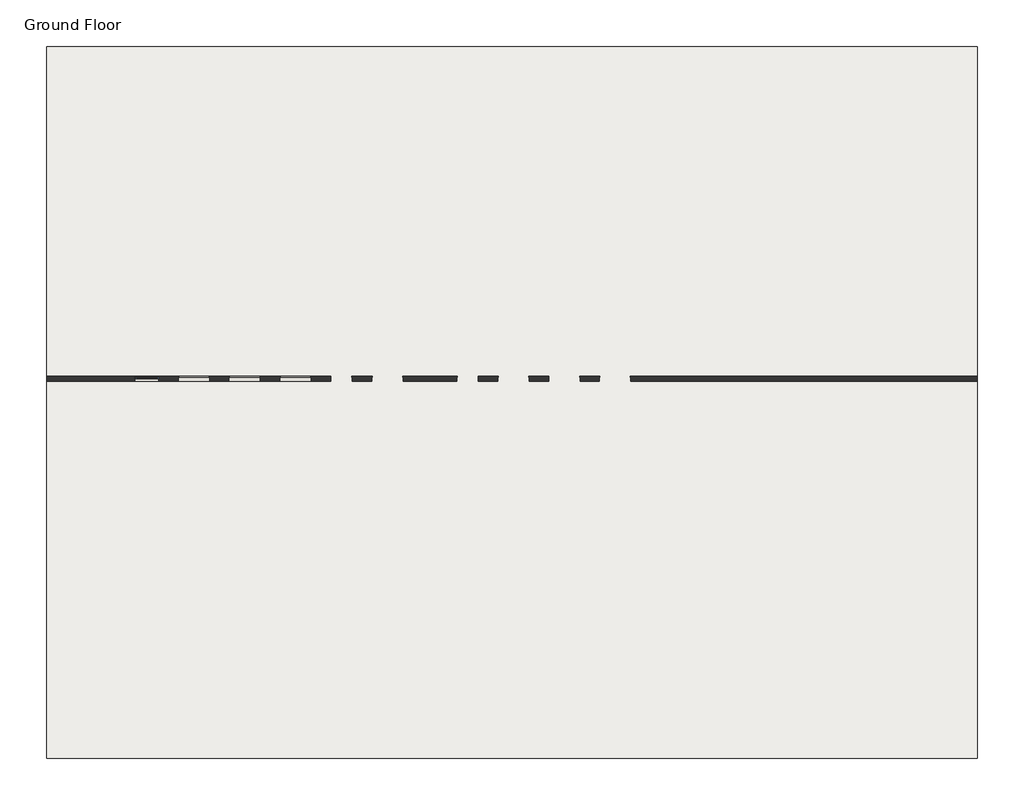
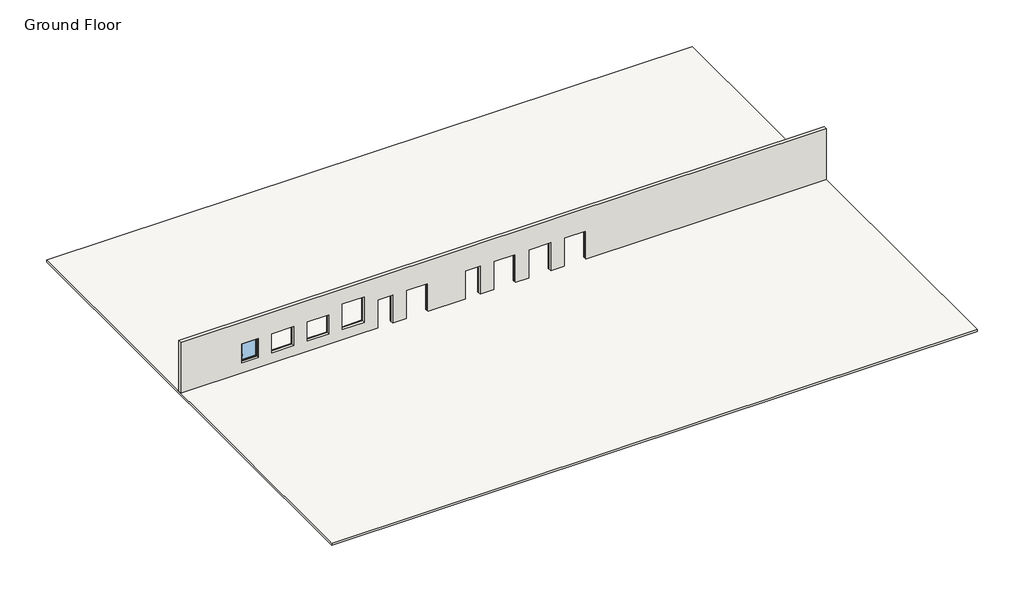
# One storey, incomplete: 1 slab, 1 wall, 1 window.
"""IFC4 building model written with IfcOpenShell, lengths in millimetres."""

from ifc_helpers import new_model, si_unit, frame, origin, place, context, project, spatial, polyline, outline, extrude, faceted_brep, transform, mapped, element, save
from components import window_342ed4de

model = new_model("IFC4")

# Units and contexts
model_context = context("Model", 3, world=origin())
ifc_project = project(units=[si_unit("LENGTHUNIT", "METRE", prefix="MILLI")], contexts=[model_context])

# Site, building, storey
site = spatial("IfcSite", under=ifc_project)
building = spatial("IfcBuilding", under=site)
storey = spatial("IfcBuildingStorey", under=building, Name="Ground Floor", Elevation=0.0)

# Slab
placement = place(None, origin())
element("IfcSlab", 1, ObjectType="Generic 150mm", at=placement, inside=storey, context=model_context, shape_type="SweptSolid", body=[
    extrude(outline(polyline([(24001.4860539, -19746.5483536), (-23998.5139461, -19746.5483536), (-23998.5139461, 16958.3739469), (24001.4860539, 16958.3739469), (24001.4860539, -19746.5483536)])), frame((0.0, 0.0, -150.0), z_axis=(0.0, 0.0, 1.0), x_axis=(1.0, 0.0, 0.0)), (0.0, 0.0, 1.0), 150.0),
])

# Wall
element("IfcWall", 2, ObjectType="Brick veneer - 250 timber", at=placement, inside=storey, context=model_context, shape_type="Brep", body=[
    faceted_brep([(24001.4860539, -296.7558328, 0.0), (24001.4860539, -296.7558328, 4000.0), (-23998.5139461, -296.7558328, 4000.0), (-23998.5139461, -296.7558328, 0.0), (-9351.402387, -296.7558328, 0.0), (-9351.402387, -296.7558328, 2210.0), (-8231.402387, -296.7558328, 2210.0), (-8231.402387, -296.7558328, 0.0), (-7231.402387, -296.7558328, 0.0), (-7231.402387, -296.7558328, 2210.0), (-5611.402387, -296.7558328, 2210.0), (-5611.402387, -296.7558328, 0.0), (-2851.402387, -296.7558328, 0.0), (-2851.402387, -296.7558328, 2210.0), (-1731.402387, -296.7558328, 2210.0), (-1731.402387, -296.7558328, 0.0), (-731.402387, -296.7558328, 0.0), (-731.402387, -296.7558328, 2210.0), (888.597613, -296.7558328, 2210.0), (888.597613, -296.7558328, 0.0), (1888.597613, -296.7558328, 0.0), (1888.597613, -296.7558328, 2210.0), (3508.597613, -296.7558328, 2210.0), (3508.597613, -296.7558328, 0.0), (4508.597613, -296.7558328, 0.0), (4508.597613, -296.7558328, 2210.0), (6128.597613, -296.7558328, 2210.0), (6128.597613, -296.7558328, 0.0), (-19461.402387, -296.7558328, 800.0), (-19461.402387, -296.7558328, 2300.0), (-18211.402387, -296.7558328, 2300.0), (-18211.402387, -296.7558328, 800.0), (-12971.402387, -296.7558328, 2300.0), (-12971.402387, -296.7558328, 800.0), (-14591.402387, -296.7558328, 800.0), (-14591.402387, -296.7558328, 2300.0), (-17211.402387, -296.7558328, 800.0), (-17211.402387, -296.7558328, 2300.0), (-15591.402387, -296.7558328, 2300.0), (-15591.402387, -296.7558328, 800.0), (-11971.402387, -296.7558328, 800.0), (-11971.402387, -296.7558328, 2800.0), (-10351.402387, -296.7558328, 2800.0), (-10351.402387, -296.7558328, 800.0), (24001.4860539, -46.7558328, 4000.0), (24001.4860539, -46.7558328, 0.0), (6108.597613, -46.7558328, 0.0), (6108.597613, -46.7558328, 2190.0), (4528.597613, -46.7558328, 2190.0), (4528.597613, -46.7558328, 0.0), (3488.597613, -46.7558328, 0.0), (3488.597613, -46.7558328, 2190.0), (1908.597613, -46.7558328, 2190.0), (1908.597613, -46.7558328, 0.0), (868.597613, -46.7558328, 0.0), (868.597613, -46.7558328, 2190.0), (-711.402387, -46.7558328, 2190.0), (-711.402387, -46.7558328, 0.0), (-1751.402387, -46.7558328, 0.0), (-1751.402387, -46.7558328, 2190.0), (-2831.402387, -46.7558328, 2190.0), (-2831.402387, -46.7558328, 0.0), (-5631.402387, -46.7558328, 0.0), (-5631.402387, -46.7558328, 2190.0), (-7211.402387, -46.7558328, 2190.0), (-7211.402387, -46.7558328, 0.0), (-8251.402387, -46.7558328, 0.0), (-8251.402387, -46.7558328, 2190.0), (-9331.402387, -46.7558328, 2190.0), (-9331.402387, -46.7558328, 0.0), (-23998.5139461, -46.7558328, 0.0), (-23998.5139461, -46.7558328, 4000.0), (-19441.402387, -46.7558328, 2280.0), (-19441.402387, -46.7558328, 820.0), (-18231.402387, -46.7558328, 820.0), (-18231.402387, -46.7558328, 2280.0), (-12991.402387, -46.7558328, 820.0), (-12991.402387, -46.7558328, 2280.0), (-14571.402387, -46.7558328, 2280.0), (-14571.402387, -46.7558328, 820.0), (-17191.402387, -46.7558328, 2280.0), (-17191.402387, -46.7558328, 820.0), (-15611.402387, -46.7558328, 820.0), (-15611.402387, -46.7558328, 2280.0), (-11951.402387, -46.7558328, 2780.0), (-11951.402387, -46.7558328, 820.0), (-10371.402387, -46.7558328, 820.0), (-10371.402387, -46.7558328, 2780.0), (6128.597613, -86.7558328, 0.0), (6108.597613, -86.7558328, 0.0), (-9331.402387, -86.7558328, 0.0), (-9351.402387, -86.7558328, 0.0), (-8231.402387, -86.7558328, 0.0), (-8251.402387, -86.7558328, 0.0), (-7211.402387, -86.7558328, 0.0), (-7231.402387, -86.7558328, 0.0), (-2831.402387, -86.7558328, 0.0), (-2851.402387, -86.7558328, 0.0), (-5611.402387, -86.7558328, 0.0), (-5631.402387, -86.7558328, 0.0), (-1731.402387, -86.7558328, 0.0), (-1751.402387, -86.7558328, 0.0), (-711.402387, -86.7558328, 0.0), (-731.402387, -86.7558328, 0.0), (888.597613, -86.7558328, 0.0), (868.597613, -86.7558328, 0.0), (1908.597613, -86.7558328, 0.0), (1888.597613, -86.7558328, 0.0), (3508.597613, -86.7558328, 0.0), (3488.597613, -86.7558328, 0.0), (4528.597613, -86.7558328, 0.0), (4508.597613, -86.7558328, 0.0), (-19461.402387, -86.7558328, 2300.0), (-19461.402387, -86.7558328, 800.0), (-18211.402387, -86.7558328, 800.0), (-18211.402387, -86.7558328, 2300.0), (-19441.402387, -86.7558328, 820.0), (-19441.402387, -86.7558328, 2280.0), (-18231.402387, -86.7558328, 2280.0), (-18231.402387, -86.7558328, 820.0), (-12971.402387, -86.7558328, 2300.0), (-14591.402387, -86.7558328, 2300.0), (-14591.402387, -86.7558328, 800.0), (-12971.402387, -86.7558328, 800.0), (-12991.402387, -86.7558328, 820.0), (-14571.402387, -86.7558328, 820.0), (-14571.402387, -86.7558328, 2280.0), (-12991.402387, -86.7558328, 2280.0), (-9351.402387, -86.7558328, 2210.0), (-9331.402387, -86.7558328, 2190.0), (-8251.402387, -86.7558328, 2190.0), (-8231.402387, -86.7558328, 2210.0), (-1731.402387, -86.7558328, 2210.0), (-2851.402387, -86.7558328, 2210.0), (-2831.402387, -86.7558328, 2190.0), (-1751.402387, -86.7558328, 2190.0), (888.597613, -86.7558328, 2210.0), (-731.402387, -86.7558328, 2210.0), (-711.402387, -86.7558328, 2190.0), (868.597613, -86.7558328, 2190.0), (3508.597613, -86.7558328, 2210.0), (1888.597613, -86.7558328, 2210.0), (1908.597613, -86.7558328, 2190.0), (3488.597613, -86.7558328, 2190.0), (6128.597613, -86.7558328, 2210.0), (4508.597613, -86.7558328, 2210.0), (4528.597613, -86.7558328, 2190.0), (6108.597613, -86.7558328, 2190.0), (-17211.402387, -86.7558328, 2300.0), (-17211.402387, -86.7558328, 800.0), (-15591.402387, -86.7558328, 800.0), (-15591.402387, -86.7558328, 2300.0), (-17191.402387, -86.7558328, 820.0), (-17191.402387, -86.7558328, 2280.0), (-15611.402387, -86.7558328, 2280.0), (-15611.402387, -86.7558328, 820.0), (-11971.402387, -86.7558328, 2800.0), (-11971.402387, -86.7558328, 800.0), (-10351.402387, -86.7558328, 800.0), (-10351.402387, -86.7558328, 2800.0), (-11951.402387, -86.7558328, 820.0), (-11951.402387, -86.7558328, 2780.0), (-10371.402387, -86.7558328, 2780.0), (-10371.402387, -86.7558328, 820.0), (-7231.402387, -86.7558328, 2210.0), (-7211.402387, -86.7558328, 2190.0), (-5631.402387, -86.7558328, 2190.0), (-5611.402387, -86.7558328, 2210.0)], [[[0, 1, 2, 3, 4, 5, 6, 7, 8, 9, 10, 11, 12, 13, 14, 15, 16, 17, 18, 19, 20, 21, 22, 23, 24, 25, 26, 27], [28, 29, 30, 31], [32, 33, 34, 35], [36, 37, 38, 39], [40, 41, 42, 43]], [[44, 45, 46, 47, 48, 49, 50, 51, 52, 53, 54, 55, 56, 57, 58, 59, 60, 61, 62, 63, 64, 65, 66, 67, 68, 69, 70, 71], [72, 73, 74, 75], [76, 77, 78, 79], [80, 81, 82, 83], [84, 85, 86, 87]], [[45, 0, 27, 88, 89, 46]], [[3, 70, 69, 90, 91, 4]], [[92, 93, 66, 65, 94, 95, 8, 7]], [[96, 97, 12, 11, 98, 99, 62, 61]], [[100, 101, 58, 57, 102, 103, 16, 15]], [[104, 105, 54, 53, 106, 107, 20, 19]], [[108, 109, 50, 49, 110, 111, 24, 23]], [[1, 0, 45, 44]], [[2, 1, 44, 71]], [[3, 2, 71, 70]], [[112, 113, 114, 115], [116, 117, 118, 119]], [[113, 112, 29, 28]], [[114, 113, 28, 31]], [[115, 114, 31, 30]], [[112, 115, 30, 29]], [[72, 117, 116, 73]], [[73, 116, 119, 74]], [[74, 119, 118, 75]], [[117, 72, 75, 118]], [[120, 121, 122, 123], [124, 125, 126, 127]], [[123, 33, 32, 120]], [[122, 34, 33, 123]], [[121, 35, 34, 122]], [[120, 32, 35, 121]], [[77, 76, 124, 127]], [[76, 79, 125, 124]], [[79, 78, 126, 125]], [[127, 126, 78, 77]], [[128, 91, 90, 129, 130, 93, 92, 131]], [[91, 128, 5, 4]], [[131, 92, 7, 6]], [[128, 131, 6, 5]], [[129, 90, 69, 68]], [[93, 130, 67, 66]], [[130, 129, 68, 67]], [[132, 133, 97, 96, 134, 135, 101, 100]], [[133, 132, 14, 13]], [[97, 133, 13, 12]], [[132, 100, 15, 14]], [[134, 96, 61, 60]], [[101, 135, 59, 58]], [[135, 134, 60, 59]], [[136, 137, 103, 102, 138, 139, 105, 104]], [[137, 136, 18, 17]], [[103, 137, 17, 16]], [[136, 104, 19, 18]], [[138, 102, 57, 56]], [[105, 139, 55, 54]], [[139, 138, 56, 55]], [[140, 141, 107, 106, 142, 143, 109, 108]], [[141, 140, 22, 21]], [[107, 141, 21, 20]], [[140, 108, 23, 22]], [[142, 106, 53, 52]], [[109, 143, 51, 50]], [[143, 142, 52, 51]], [[144, 145, 111, 110, 146, 147, 89, 88]], [[145, 144, 26, 25]], [[111, 145, 25, 24]], [[144, 88, 27, 26]], [[146, 110, 49, 48]], [[89, 147, 47, 46]], [[147, 146, 48, 47]], [[148, 149, 150, 151], [152, 153, 154, 155]], [[149, 148, 37, 36]], [[150, 149, 36, 39]], [[151, 150, 39, 38]], [[148, 151, 38, 37]], [[80, 153, 152, 81]], [[81, 152, 155, 82]], [[82, 155, 154, 83]], [[153, 80, 83, 154]], [[156, 157, 158, 159], [160, 161, 162, 163]], [[157, 156, 41, 40]], [[158, 157, 40, 43]], [[159, 158, 43, 42]], [[156, 159, 42, 41]], [[84, 161, 160, 85]], [[85, 160, 163, 86]], [[86, 163, 162, 87]], [[161, 84, 87, 162]], [[164, 95, 94, 165, 166, 99, 98, 167]], [[95, 164, 9, 8]], [[167, 98, 11, 10]], [[164, 167, 10, 9]], [[165, 94, 65, 64]], [[99, 166, 63, 62]], [[166, 165, 64, 63]]]),
])

# Window
window_shape = window_342ed4de(model_context)
element("IfcWindow", 3, ObjectType="Jednokrilni prozor_FT-0201 HF+FT-0203 HF : Jednokrilni prozor_FT-0201 HF+FT-0203 HF-1230x1480mm", at=placement, inside=storey, context=model_context, shape_type="MappedRepresentation", body=[
    mapped(window_shape, transform((-18836.402387, -171.7558328, 0.0), x_axis=(1.0, 0.0, 0.0), y_axis=(0.0, 1.0, 0.0), z_axis=(0.0, 0.0, 1.0))),
])

save(model, "model.ifc")
